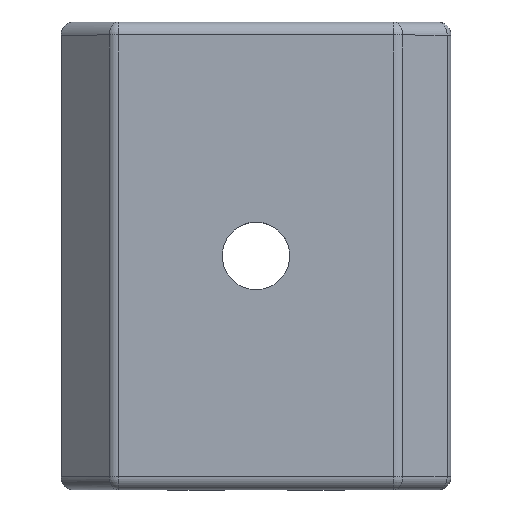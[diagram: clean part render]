
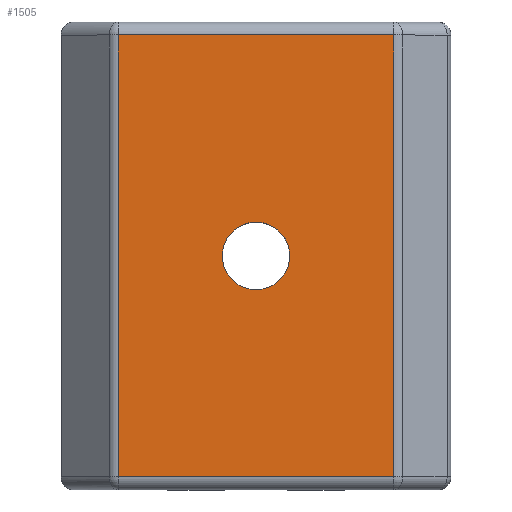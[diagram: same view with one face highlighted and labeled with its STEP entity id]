
A CAD part, top view. The second image highlights one B-rep face of the part: STEP entity #1505.
In plain terms, the highlighted planar face has unit normal (0, 0, 1).
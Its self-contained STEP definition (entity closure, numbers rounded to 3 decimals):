
#17 = VERTEX_POINT ( 'NONE', #2021 ) ;
#68 = VECTOR ( 'NONE', #954, 1000. ) ;
#122 = DIRECTION ( 'NONE',  ( -1., 0., 0. ) ) ;
#134 = LINE ( 'NONE', #2110, #1119 ) ;
#221 = DIRECTION ( 'NONE',  ( 1., 0., 0. ) ) ;
#294 = VECTOR ( 'NONE', #454, 1000. ) ;
#331 = DIRECTION ( 'NONE',  ( 1., 0., 0. ) ) ;
#374 = VERTEX_POINT ( 'NONE', #484 ) ;
#390 = PLANE ( 'NONE',  #1504 ) ;
#400 = CARTESIAN_POINT ( 'NONE',  ( 2.6, -9., 1.528 ) ) ;
#454 = DIRECTION ( 'NONE',  ( 0., 1., 0. ) ) ;
#455 = EDGE_CURVE ( 'NONE', #17, #545, #134, .T. ) ;
#469 = EDGE_CURVE ( 'NONE', #1971, #1271, #556, .T. ) ;
#484 = CARTESIAN_POINT ( 'NONE',  ( 9.193, -17.5, 1.528 ) ) ;
#489 = ORIENTED_EDGE ( 'NONE', *, *, #1406, .T. ) ;
#545 = VERTEX_POINT ( 'NONE', #1275 ) ;
#556 = CIRCLE ( 'NONE', #1772, 1.3 ) ;
#564 = ORIENTED_EDGE ( 'NONE', *, *, #748, .T. ) ;
#687 = CARTESIAN_POINT ( 'NONE',  ( -1.393, -17.5, 1.528 ) ) ;
#699 = CARTESIAN_POINT ( 'NONE',  ( -1.6, -17.5, 1.528 ) ) ;
#708 = FACE_BOUND ( 'NONE', #1338, .T. ) ;
#726 = DIRECTION ( 'NONE',  ( 1., 0., 0. ) ) ;
#734 = LINE ( 'NONE', #2243, #294 ) ;
#748 = EDGE_CURVE ( 'NONE', #1260, #374, #1547, .T. ) ;
#754 = DIRECTION ( 'NONE',  ( 0., 0., 1. ) ) ;
#760 = CARTESIAN_POINT ( 'NONE',  ( -1.393, -18., 1.528 ) ) ;
#808 = ORIENTED_EDGE ( 'NONE', *, *, #455, .T. ) ;
#847 = DIRECTION ( 'NONE',  ( 1., 0., 0. ) ) ;
#887 = VECTOR ( 'NONE', #847, 1000. ) ;
#890 = CARTESIAN_POINT ( 'NONE',  ( 3.9, -9., 1.528 ) ) ;
#942 = CARTESIAN_POINT ( 'NONE',  ( 5.2, -9., 1.528 ) ) ;
#954 = DIRECTION ( 'NONE',  ( 0., -1., 0. ) ) ;
#955 = EDGE_CURVE ( 'NONE', #1271, #1971, #2216, .T. ) ;
#1119 = VECTOR ( 'NONE', #122, 1000. ) ;
#1164 = EDGE_LOOP ( 'NONE', ( #564, #1912, #808, #489 ) ) ;
#1260 = VERTEX_POINT ( 'NONE', #687 ) ;
#1271 = VERTEX_POINT ( 'NONE', #400 ) ;
#1275 = CARTESIAN_POINT ( 'NONE',  ( -1.393, -0.5, 1.528 ) ) ;
#1338 = EDGE_LOOP ( 'NONE', ( #1823, #1722 ) ) ;
#1406 = EDGE_CURVE ( 'NONE', #545, #1260, #1777, .T. ) ;
#1438 = AXIS2_PLACEMENT_3D ( 'NONE', #1812, #2032, #726 ) ;
#1444 = DIRECTION ( 'NONE',  ( 0., 0., -1. ) ) ;
#1504 = AXIS2_PLACEMENT_3D ( 'NONE', #1828, #754, #221 ) ;
#1505 = ADVANCED_FACE ( 'NONE', ( #1750, #708 ), #390, .T. ) ;
#1529 = EDGE_CURVE ( 'NONE', #374, #17, #734, .T. ) ;
#1547 = LINE ( 'NONE', #699, #887 ) ;
#1722 = ORIENTED_EDGE ( 'NONE', *, *, #469, .T. ) ;
#1750 = FACE_OUTER_BOUND ( 'NONE', #1164, .T. ) ;
#1772 = AXIS2_PLACEMENT_3D ( 'NONE', #890, #1444, #331 ) ;
#1777 = LINE ( 'NONE', #760, #68 ) ;
#1812 = CARTESIAN_POINT ( 'NONE',  ( 3.9, -9., 1.528 ) ) ;
#1823 = ORIENTED_EDGE ( 'NONE', *, *, #955, .T. ) ;
#1828 = CARTESIAN_POINT ( 'NONE',  ( -1.6, -18., 1.528 ) ) ;
#1912 = ORIENTED_EDGE ( 'NONE', *, *, #1529, .T. ) ;
#1971 = VERTEX_POINT ( 'NONE', #942 ) ;
#2021 = CARTESIAN_POINT ( 'NONE',  ( 9.193, -0.5, 1.528 ) ) ;
#2032 = DIRECTION ( 'NONE',  ( 0., 0., -1. ) ) ;
#2110 = CARTESIAN_POINT ( 'NONE',  ( -1.6, -0.5, 1.528 ) ) ;
#2216 = CIRCLE ( 'NONE', #1438, 1.3 ) ;
#2243 = CARTESIAN_POINT ( 'NONE',  ( 9.193, -18., 1.528 ) ) ;
